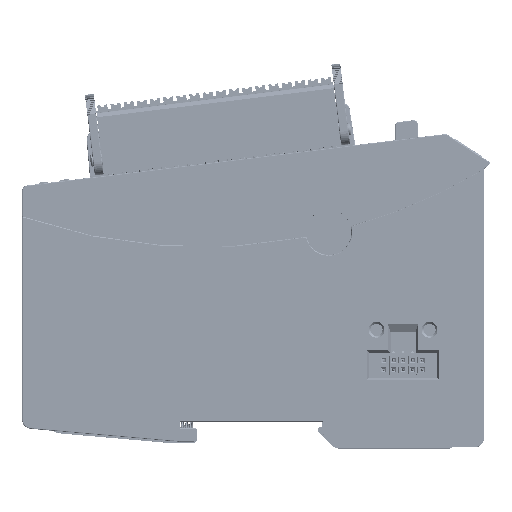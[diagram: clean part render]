
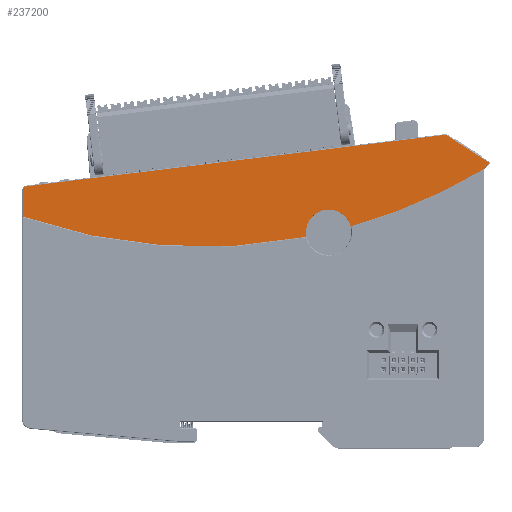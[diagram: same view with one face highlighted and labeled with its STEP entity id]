
A CAD part, top view. The second image highlights one B-rep face of the part: STEP entity #237200.
In plain terms, the highlighted planar face has unit normal (0, 0, 1).
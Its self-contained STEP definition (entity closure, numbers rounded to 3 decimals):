
#234587=AXIS2_PLACEMENT_3D('Circle Axis2P3D',#234585,#234586,$) ;
#234612=AXIS2_PLACEMENT_3D('Circle Axis2P3D',#234610,#234611,$) ;
#237037=AXIS2_PLACEMENT_3D('Circle Axis2P3D',#237035,#237036,$) ;
#237061=AXIS2_PLACEMENT_3D('Circle Axis2P3D',#237059,#237060,$) ;
#237074=AXIS2_PLACEMENT_3D('Plane Axis2P3D',#237071,#237072,#237073) ;
#237104=AXIS2_PLACEMENT_3D('Circle Axis2P3D',#237102,#237103,$) ;
#237136=AXIS2_PLACEMENT_3D('Circle Axis2P3D',#237134,#237135,$) ;
#237143=AXIS2_PLACEMENT_3D('Circle Axis2P3D',#237141,#237142,$) ;
#237179=AXIS2_PLACEMENT_3D('Circle Axis2P3D',#237177,#237178,$) ;
#190020=CARTESIAN_POINT('Vertex',(109.882,76.012,23.3)) ;
#190027=CARTESIAN_POINT('Vertex',(-0.258,62.488,23.3)) ;
#190030=CARTESIAN_POINT('Line Origine',(60.199,69.912,23.3)) ;
#234561=CARTESIAN_POINT('Vertex',(120.249,66.935,23.3)) ;
#234582=CARTESIAN_POINT('Vertex',(120.3,66.949,23.3)) ;
#234585=CARTESIAN_POINT('Axis2P3D Location',(120.3,66.849,23.3)) ;
#234607=CARTESIAN_POINT('Vertex',(120.399,67.159,23.3)) ;
#234610=CARTESIAN_POINT('Axis2P3D Location',(120.6,66.936,23.3)) ;
#237032=CARTESIAN_POINT('Vertex',(-1.4,61.198,23.3)) ;
#237035=CARTESIAN_POINT('Axis2P3D Location',(-0.1,61.198,23.3)) ;
#237056=CARTESIAN_POINT('Vertex',(110.749,75.812,23.3)) ;
#237059=CARTESIAN_POINT('Axis2P3D Location',(110.041,74.722,23.3)) ;
#237071=CARTESIAN_POINT('Axis2P3D Location',(-1.6,-1.675,23.3)) ;
#237076=CARTESIAN_POINT('Line Origine',(121.058,67.752,23.3)) ;
#237080=CARTESIAN_POINT('Vertex',(121.716,68.345,23.3)) ;
#237083=CARTESIAN_POINT('Line Origine',(121.673,68.545,23.3)) ;
#237087=CARTESIAN_POINT('Vertex',(121.631,68.745,23.3)) ;
#237090=CARTESIAN_POINT('Line Origine',(116.19,72.278,23.3)) ;
#237095=CARTESIAN_POINT('Line Origine',(-1.4,57.827,23.3)) ;
#237099=CARTESIAN_POINT('Vertex',(-1.4,54.456,23.3)) ;
#237102=CARTESIAN_POINT('Axis2P3D Location',(46.007,191.487,23.3)) ;
#237106=CARTESIAN_POINT('Vertex',(73.331,49.085,23.3)) ;
#237110=CARTESIAN_POINT('Control Point',(73.331,49.085,23.3)) ;
#237111=CARTESIAN_POINT('Control Point',(73.344,49.087,23.3)) ;
#237112=CARTESIAN_POINT('Control Point',(73.357,49.088,23.3)) ;
#237113=CARTESIAN_POINT('Control Point',(73.37,49.089,23.3)) ;
#237114=CARTESIAN_POINT('Control Point',(73.396,49.087,23.3)) ;
#237115=CARTESIAN_POINT('Control Point',(73.421,49.082,23.3)) ;
#237116=CARTESIAN_POINT('Control Point',(73.433,49.078,23.3)) ;
#237117=CARTESIAN_POINT('Control Point',(73.457,49.069,23.3)) ;
#237118=CARTESIAN_POINT('Control Point',(73.48,49.055,23.3)) ;
#237119=CARTESIAN_POINT('Control Point',(73.49,49.048,23.3)) ;
#237120=CARTESIAN_POINT('Control Point',(73.51,49.031,23.3)) ;
#237121=CARTESIAN_POINT('Control Point',(73.527,49.012,23.3)) ;
#237122=CARTESIAN_POINT('Control Point',(73.535,49.001,23.3)) ;
#237123=CARTESIAN_POINT('Control Point',(73.545,48.984,23.3)) ;
#237124=CARTESIAN_POINT('Control Point',(73.553,48.967,23.3)) ;
#237125=CARTESIAN_POINT('Control Point',(73.555,48.961,23.3)) ;
#237126=CARTESIAN_POINT('Control Point',(73.559,48.952,23.3)) ;
#237127=CARTESIAN_POINT('Control Point',(73.561,48.943,23.3)) ;
#237128=CARTESIAN_POINT('Control Point',(73.562,48.94,23.3)) ;
#237129=CARTESIAN_POINT('Control Point',(73.563,48.937,23.3)) ;
#237130=CARTESIAN_POINT('Control Point',(73.563,48.935,23.3)) ;
#237131=CARTESIAN_POINT('Vertex',(73.563,48.935,23.3)) ;
#237134=CARTESIAN_POINT('Axis2P3D Location',(79.4,50.325,23.3)) ;
#237138=CARTESIAN_POINT('Vertex',(73.4,50.325,23.3)) ;
#237141=CARTESIAN_POINT('Axis2P3D Location',(79.4,50.325,23.3)) ;
#237145=CARTESIAN_POINT('Vertex',(85.194,51.883,23.3)) ;
#237149=CARTESIAN_POINT('Control Point',(85.194,51.883,23.3)) ;
#237150=CARTESIAN_POINT('Control Point',(85.199,51.864,23.3)) ;
#237151=CARTESIAN_POINT('Control Point',(85.204,51.845,23.3)) ;
#237152=CARTESIAN_POINT('Control Point',(85.209,51.826,23.3)) ;
#237153=CARTESIAN_POINT('Control Point',(85.214,51.807,23.3)) ;
#237154=CARTESIAN_POINT('Control Point',(85.219,51.788,23.3)) ;
#237155=CARTESIAN_POINT('Vertex',(85.219,51.788,23.3)) ;
#237159=CARTESIAN_POINT('Control Point',(85.219,51.788,23.3)) ;
#237160=CARTESIAN_POINT('Control Point',(85.217,51.797,23.3)) ;
#237161=CARTESIAN_POINT('Control Point',(85.215,51.807,23.3)) ;
#237162=CARTESIAN_POINT('Control Point',(85.215,51.816,23.3)) ;
#237163=CARTESIAN_POINT('Control Point',(85.217,51.835,23.3)) ;
#237164=CARTESIAN_POINT('Control Point',(85.223,51.852,23.3)) ;
#237165=CARTESIAN_POINT('Control Point',(85.227,51.861,23.3)) ;
#237166=CARTESIAN_POINT('Control Point',(85.238,51.877,23.3)) ;
#237167=CARTESIAN_POINT('Control Point',(85.251,51.89,23.3)) ;
#237168=CARTESIAN_POINT('Control Point',(85.259,51.896,23.3)) ;
#237169=CARTESIAN_POINT('Control Point',(85.269,51.902,23.3)) ;
#237170=CARTESIAN_POINT('Control Point',(85.28,51.906,23.3)) ;
#237171=CARTESIAN_POINT('Control Point',(85.283,51.907,23.3)) ;
#237172=CARTESIAN_POINT('Control Point',(85.286,51.908,23.3)) ;
#237173=CARTESIAN_POINT('Control Point',(85.289,51.909,23.3)) ;
#237174=CARTESIAN_POINT('Vertex',(85.289,51.909,23.3)) ;
#237177=CARTESIAN_POINT('Axis2P3D Location',(46.007,191.487,23.3)) ;
#190031=DIRECTION('Vector Direction',(-0.993,-0.122,0.)) ;
#234586=DIRECTION('Axis2P3D Direction',(0.,0.,1.)) ;
#234611=DIRECTION('Axis2P3D Direction',(0.,0.,1.)) ;
#237036=DIRECTION('Axis2P3D Direction',(0.,0.,1.)) ;
#237060=DIRECTION('Axis2P3D Direction',(0.,0.,1.)) ;
#237072=DIRECTION('Axis2P3D Direction',(0.,0.,1.)) ;
#237073=DIRECTION('Axis2P3D XDirection',(1.,0.,0.)) ;
#237077=DIRECTION('Vector Direction',(0.743,0.669,0.)) ;
#237084=DIRECTION('Vector Direction',(-0.208,0.978,0.)) ;
#237091=DIRECTION('Vector Direction',(0.839,-0.545,0.)) ;
#237096=DIRECTION('Vector Direction',(0.,1.,0.)) ;
#237103=DIRECTION('Axis2P3D Direction',(0.,0.,1.)) ;
#237135=DIRECTION('Axis2P3D Direction',(0.,0.,1.)) ;
#237142=DIRECTION('Axis2P3D Direction',(0.,0.,1.)) ;
#237178=DIRECTION('Axis2P3D Direction',(0.,0.,1.)) ;
#190032=VECTOR('Line Direction',#190031,1.) ;
#237078=VECTOR('Line Direction',#237077,1.) ;
#237085=VECTOR('Line Direction',#237084,1.) ;
#237092=VECTOR('Line Direction',#237091,1.) ;
#237097=VECTOR('Line Direction',#237096,1.) ;
#237183=ORIENTED_EDGE('',*,*,#234589,.F.) ;
#237184=ORIENTED_EDGE('',*,*,#234614,.T.) ;
#237185=ORIENTED_EDGE('',*,*,#237082,.T.) ;
#237186=ORIENTED_EDGE('',*,*,#237089,.F.) ;
#237187=ORIENTED_EDGE('',*,*,#237094,.T.) ;
#237188=ORIENTED_EDGE('',*,*,#237063,.T.) ;
#237189=ORIENTED_EDGE('',*,*,#190034,.T.) ;
#237190=ORIENTED_EDGE('',*,*,#237039,.T.) ;
#237191=ORIENTED_EDGE('',*,*,#237101,.T.) ;
#237192=ORIENTED_EDGE('',*,*,#237108,.T.) ;
#237193=ORIENTED_EDGE('',*,*,#237133,.F.) ;
#237194=ORIENTED_EDGE('',*,*,#237140,.F.) ;
#237195=ORIENTED_EDGE('',*,*,#237147,.F.) ;
#237196=ORIENTED_EDGE('',*,*,#237157,.T.) ;
#237197=ORIENTED_EDGE('',*,*,#237176,.F.) ;
#237198=ORIENTED_EDGE('',*,*,#237181,.T.) ;
#237200=ADVANCED_FACE('K\X2\00F6\X0\rper.2',(#237199),#237075,.T.) ;
#237109=B_SPLINE_CURVE_WITH_KNOTS('',5,(#237110,#237111,#237112,#237113,#237114,#237115,#237116,#237117,#237118,#237119,#237120,#237121,#237122,#237123,#237124,#237125,#237126,#237127,#237128,#237129,#237130),.UNSPECIFIED.,.F.,.U.,(6,3,3,3,3,3,6),(0.,0.091,0.182,0.274,0.365,0.41,0.431),.UNSPECIFIED.) ;
#237148=B_SPLINE_CURVE_WITH_KNOTS('',5,(#237149,#237150,#237151,#237152,#237153,#237154),.UNSPECIFIED.,.F.,.U.,(6,6),(0.,0.14),.UNSPECIFIED.) ;
#237158=B_SPLINE_CURVE_WITH_KNOTS('',5,(#237159,#237160,#237161,#237162,#237163,#237164,#237165,#237166,#237167,#237168,#237169,#237170,#237171,#237172,#237173),.UNSPECIFIED.,.F.,.U.,(6,3,3,3,6),(0.,0.055,0.11,0.166,0.183),.UNSPECIFIED.) ;
#234588=CIRCLE('generated circle',#234587,0.1) ;
#234613=CIRCLE('generated circle',#234612,0.3) ;
#237038=CIRCLE('generated circle',#237037,1.3) ;
#237062=CIRCLE('generated circle',#237061,1.3) ;
#237105=CIRCLE('generated circle',#237104,145.) ;
#237137=CIRCLE('generated circle',#237136,6.) ;
#237144=CIRCLE('generated circle',#237143,6.) ;
#237180=CIRCLE('generated circle',#237179,145.) ;
#190034=EDGE_CURVE('',#190021,#190028,#190033,.T.) ;
#234589=EDGE_CURVE('',#234583,#234562,#234588,.T.) ;
#234614=EDGE_CURVE('',#234583,#234608,#234613,.F.) ;
#237039=EDGE_CURVE('',#190028,#237033,#237038,.T.) ;
#237063=EDGE_CURVE('',#237057,#190021,#237062,.T.) ;
#237082=EDGE_CURVE('',#234608,#237081,#237079,.T.) ;
#237089=EDGE_CURVE('',#237088,#237081,#237086,.F.) ;
#237094=EDGE_CURVE('',#237088,#237057,#237093,.F.) ;
#237101=EDGE_CURVE('',#237033,#237100,#237098,.F.) ;
#237108=EDGE_CURVE('',#237100,#237107,#237105,.T.) ;
#237133=EDGE_CURVE('',#237132,#237107,#237109,.F.) ;
#237140=EDGE_CURVE('',#237139,#237132,#237137,.T.) ;
#237147=EDGE_CURVE('',#237146,#237139,#237144,.T.) ;
#237157=EDGE_CURVE('',#237146,#237156,#237148,.T.) ;
#237176=EDGE_CURVE('',#237175,#237156,#237158,.F.) ;
#237181=EDGE_CURVE('',#237175,#234562,#237180,.T.) ;
#237182=EDGE_LOOP('',(#237183,#237184,#237185,#237186,#237187,#237188,#237189,#237190,#237191,#237192,#237193,#237194,#237195,#237196,#237197,#237198)) ;
#237199=FACE_OUTER_BOUND('',#237182,.T.) ;
#190033=LINE('Line',#190030,#190032) ;
#237079=LINE('Line',#237076,#237078) ;
#237086=LINE('Line',#237083,#237085) ;
#237093=LINE('Line',#237090,#237092) ;
#237098=LINE('Line',#237095,#237097) ;
#237075=PLANE('Plane',#237074) ;
#190021=VERTEX_POINT('',#190020) ;
#190028=VERTEX_POINT('',#190027) ;
#234562=VERTEX_POINT('',#234561) ;
#234583=VERTEX_POINT('',#234582) ;
#234608=VERTEX_POINT('',#234607) ;
#237033=VERTEX_POINT('',#237032) ;
#237057=VERTEX_POINT('',#237056) ;
#237081=VERTEX_POINT('',#237080) ;
#237088=VERTEX_POINT('',#237087) ;
#237100=VERTEX_POINT('',#237099) ;
#237107=VERTEX_POINT('',#237106) ;
#237132=VERTEX_POINT('',#237131) ;
#237139=VERTEX_POINT('',#237138) ;
#237146=VERTEX_POINT('',#237145) ;
#237156=VERTEX_POINT('',#237155) ;
#237175=VERTEX_POINT('',#237174) ;
